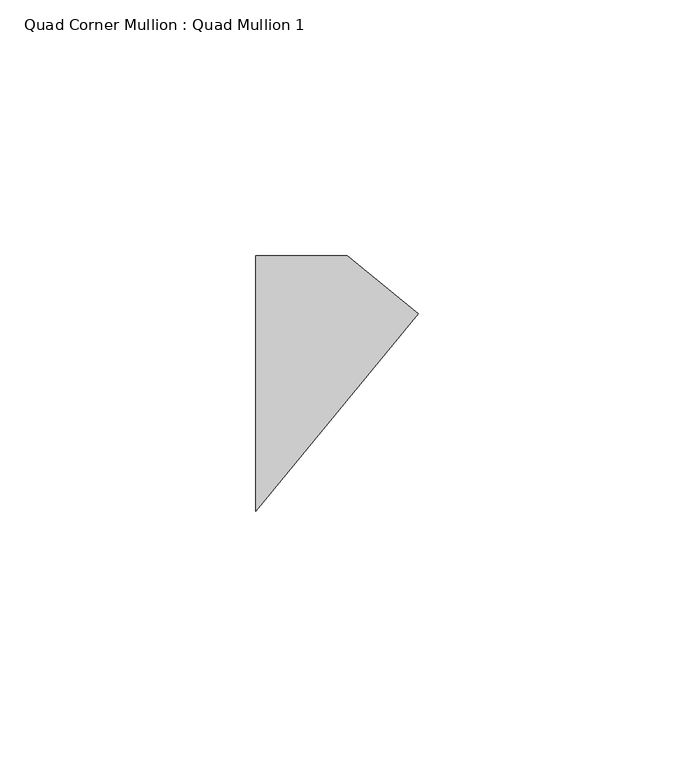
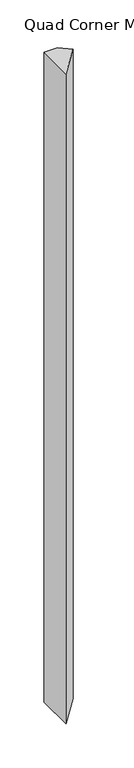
"""IFC4 building model written with IfcOpenShell, lengths in millimetres: member geometry, Quad Corner Mullion : Quad Mullion 1."""

import ifcopenshell
import ifcopenshell.guid

model = None  # the IFC model being written
_history = None  # IfcOwnerHistory: only IFC2X3 demands one
_inside = {}  # id of a spatial element -> (the spatial element, [elements in it])
_under = {}  # id of a project, library or spatial element -> (it, [spatial elements below it])
_declared = {}  # id of a project -> (the project, [libraries it declares])
_typed = {}  # id of a type object -> (the type object, [elements of that type])
_made_of = {}  # id of a material, layer set ... -> (it, [elements and type objects made of it])


def new_model(schema):
    """Start an empty IFC model of exactly this schema.

    Asked for "IFC4X3", IfcOpenShell would pick the latest addendum, in which some entities
    have other attributes; the version numbers below select the first issue.
    IFC2X3 requires an IfcOwnerHistory on every rooted entity: one is made here for all.
    """
    global model, _history
    if schema == "IFC4X3":
        model = ifcopenshell.file(schema_version=(4, 3, 0, 0))
    else:
        model = ifcopenshell.file(schema=schema)
    _inside.clear()
    _under.clear()
    _declared.clear()
    _typed.clear()
    _made_of.clear()
    _history = None
    if model.schema == "IFC2X3":
        org = make("IfcOrganization", Name="unknown")
        user = make(
            "IfcPersonAndOrganization",
            ThePerson=make("IfcPerson", FamilyName="unknown"),
            TheOrganization=org,
        )
        app = make(
            "IfcApplication",
            ApplicationDeveloper=org,
            Version="unknown",
            ApplicationFullName="unknown",
            ApplicationIdentifier="unknown",
        )
        _history = make(
            "IfcOwnerHistory",
            OwningUser=user,
            OwningApplication=app,
            ChangeAction="ADDED",
            CreationDate=0,
        )
    return model


def make(cls, **values):
    """One entity of the class cls with the attributes given. An attribute that is None is left unset."""
    return model.create_entity(
        cls, **{name: value for name, value in values.items() if value is not None}
    )


def rooted(cls, **values):
    """An entity with a GlobalId (a new one), such as an element, a storey or a relation."""
    return make(cls, GlobalId=ifcopenshell.guid.new(), OwnerHistory=_history, **values)


def si_unit(unit_type, name, prefix=None):
    """IfcSIUnit, for example si_unit("LENGTHUNIT", "METRE", prefix="MILLI")."""
    return make("IfcSIUnit", UnitType=unit_type, Prefix=prefix, Name=name)


def assignment(units):
    """IfcUnitAssignment: the units of a project."""
    return None if units is None else make("IfcUnitAssignment", Units=units)


def point(xyz):
    """IfcCartesianPoint."""
    return None if xyz is None else make("IfcCartesianPoint", Coordinates=xyz)


def direction(xyz):
    """IfcDirection."""
    return None if xyz is None else make("IfcDirection", DirectionRatios=xyz)


def frame(location, z_axis=None, x_axis=None):
    """IfcAxis2Placement3D, a coordinate frame: its origin and axes. An axis left out is left unset."""
    return make(
        "IfcAxis2Placement3D",
        Location=point(location),
        Axis=direction(z_axis),
        RefDirection=direction(x_axis),
    )


def origin():
    """The frame at (0, 0, 0) with its axes left unset."""
    return frame((0.0, 0.0, 0.0))


def place(relative_to, where):
    """IfcLocalPlacement: puts the frame where relative to a parent placement (None: the world)."""
    return make(
        "IfcLocalPlacement", PlacementRelTo=relative_to, RelativePlacement=where
    )


def context(
    kind, dimensions, precision=None, world=None, true_north=None, identifier=None
):
    """IfcGeometricRepresentationContext, for example the 3D "Model" context."""
    return make(
        "IfcGeometricRepresentationContext",
        ContextIdentifier=identifier,
        ContextType=kind,
        CoordinateSpaceDimension=dimensions,
        Precision=precision,
        WorldCoordinateSystem=world,
        TrueNorth=true_north,
    )


def project(units=None, contexts=None):
    """IfcProject with its units and contexts."""
    return rooted(
        "IfcProject",
        Name="project",
        RepresentationContexts=contexts,
        UnitsInContext=assignment(units),
    )


def spatial(cls, under=None, at=None, **own):
    """A site, building, storey or space (cls), placed at a placement, below another one or the project."""
    s = rooted(cls, ObjectPlacement=at, **own)
    if under is not None:
        _under.setdefault(under.id(), (under, []))[1].append(s)
    return s


def polyline(points):
    """IfcPolyline through the points."""
    return make("IfcPolyline", Points=[point(p) for p in points])


def outline(outer, holes=None, kind="AREA"):
    """IfcArbitraryClosedProfileDef: a profile drawn as a closed curve; with holes, ...WithVoids."""
    if holes is None:
        return make("IfcArbitraryClosedProfileDef", ProfileType=kind, OuterCurve=outer)
    return make(
        "IfcArbitraryProfileDefWithVoids",
        ProfileType=kind,
        OuterCurve=outer,
        InnerCurves=holes,
    )


def extrude(swept, where, along, depth):
    """IfcExtrudedAreaSolid: the profile swept, set in the frame where, extruded along a direction by depth."""
    return make(
        "IfcExtrudedAreaSolid",
        SweptArea=swept,
        Position=where,
        ExtrudedDirection=direction(along),
        Depth=depth,
    )


def shape(context_of_items, identifier, shape_type, items):
    """IfcShapeRepresentation: the items that make up one representation, for example the "Body"."""
    return make(
        "IfcShapeRepresentation",
        ContextOfItems=context_of_items,
        RepresentationIdentifier=identifier,
        RepresentationType=shape_type,
        Items=items,
    )


def source(mapping_origin, context_of_items, identifier, shape_type, items):
    """IfcRepresentationMap: a shape defined once, which mapped items show again and again."""
    return make(
        "IfcRepresentationMap",
        MappingOrigin=mapping_origin,
        MappedRepresentation=shape(context_of_items, identifier, shape_type, items),
    )


def transform(
    local_origin,
    x_axis=None,
    y_axis=None,
    z_axis=None,
    scale=None,
    scale2=None,
    scale3=None,
    uniform=True,
):
    """IfcCartesianTransformationOperator3D, or its non-uniform kind. x_axis, y_axis, z_axis: its Axis1, 2, 3."""
    if uniform:
        return make(
            "IfcCartesianTransformationOperator3D",
            Axis1=direction(x_axis),
            Axis2=direction(y_axis),
            LocalOrigin=point(local_origin),
            Scale=scale,
            Axis3=direction(z_axis),
        )
    return make(
        "IfcCartesianTransformationOperator3DnonUniform",
        Axis1=direction(x_axis),
        Axis2=direction(y_axis),
        LocalOrigin=point(local_origin),
        Scale=scale,
        Axis3=direction(z_axis),
        Scale2=scale2,
        Scale3=scale3,
    )


def mapped(mapping_source, mapping_target):
    """IfcMappedItem: shows the shape of a source again, moved by a transform."""
    return make(
        "IfcMappedItem", MappingSource=mapping_source, MappingTarget=mapping_target
    )


def made_of(thing, what):
    """Note that an element or type object is made of a material, layer set ...; save() writes the relation."""
    if what is not None:
        _made_of.setdefault(what.id(), (what, []))[1].append(thing)
    return thing


def element(
    cls,
    number,
    at=None,
    inside=None,
    cuts=None,
    type_object=None,
    material=None,
    context=None,
    identifier="Body",
    shape_type=None,
    held_by="IfcProductDefinitionShape",
    body=None,
    shapes=None,
    **own,
):
    """One element of the class cls, such as IfcWall. Its Tag is "e" and its number.

    at: its placement. inside: the storey or other place that contains it. cuts: it is an
    opening in that element (IfcRelVoidsElement). A single representation is given by context,
    identifier, shape_type and body (its items); several are given by shapes. held_by: the class
    of the entity that holds the representations. save() writes the other relations.
    """
    e = rooted(cls, Tag="e%d" % number, ObjectPlacement=at, **own)
    if body is not None:
        shapes = [shape(context, identifier, shape_type, body)]
    if shapes is not None:
        e.Representation = make(held_by, Representations=shapes)
    if inside is not None:
        _inside.setdefault(inside.id(), (inside, []))[1].append(e)
    if cuts is not None:
        rooted(
            "IfcRelVoidsElement", RelatingBuildingElement=cuts, RelatedOpeningElement=e
        )
    if type_object is not None:
        _typed.setdefault(type_object.id(), (type_object, []))[1].append(e)
    return made_of(e, material)


def aggregate(whole, parts):
    """IfcRelAggregates: a whole, such as a stair, and the parts it consists of."""
    return rooted("IfcRelAggregates", RelatingObject=whole, RelatedObjects=parts)


def save(model, path):
    """Write the relations noted so far, then the file.

    IfcRelAggregates (storeys below a building ...), IfcRelContainedInSpatialStructure (elements
    in a storey), IfcRelDefinesByType, IfcRelAssociatesMaterial and IfcRelDeclares: one each for
    every whole, place, type object, material and project.
    """
    for whole, parts in _under.values():
        aggregate(whole, parts)
    for where, things in _inside.values():
        rooted(
            "IfcRelContainedInSpatialStructure",
            RelatedElements=things,
            RelatingStructure=where,
        )
    for kind, things in _typed.values():
        rooted("IfcRelDefinesByType", RelatedObjects=things, RelatingType=kind)
    for what, things in _made_of.values():
        rooted("IfcRelAssociatesMaterial", RelatedObjects=things, RelatingMaterial=what)
    for by, libraries in _declared.values():
        rooted("IfcRelDeclares", RelatingContext=by, RelatedDefinitions=libraries)
    model.write(path)


def quad_corner_mullion_quad_mullion_1_c7cfdb0f(model_context):
    return source(origin(), model_context, "Body", "SweptSolid", [
        extrude(outline(polyline([(22.8068923, 13.6086231), (-8.963758, -25.0), (-8.963758, 25.0), (8.963758, 25.0), (22.8068923, 13.6086231)])), frame((0.0, 0.0, -900.0), z_axis=(0.0, 0.0, 1.0), x_axis=(1.0, 0.0, 0.0)), (0.0, 0.0, 1.0), 900.0),
    ])


if __name__ == "__main__":
    model = new_model("IFC4")
    model_context = context("Model", 3, world=origin())
    ifc_project = project(units=[si_unit("LENGTHUNIT", "METRE", prefix="MILLI")], contexts=[model_context])
    site = spatial("IfcSite", under=ifc_project)
    building = spatial("IfcBuilding", under=site)
    placement = place(None, origin())
    quad_corner_mullion_quad_mullion_1_shape = quad_corner_mullion_quad_mullion_1_c7cfdb0f(model_context)
    element("IfcMember", 1, ObjectType="Quad Corner Mullion : Quad Mullion 1", at=placement, inside=building, context=model_context, shape_type="MappedRepresentation", body=[
        mapped(quad_corner_mullion_quad_mullion_1_shape, transform((0.0, 0.0, 0.0), x_axis=(1.0, 0.0, 0.0), y_axis=(0.0, 1.0, 0.0), z_axis=(0.0, 0.0, 1.0))),
    ])
    save(model, "model.ifc")
